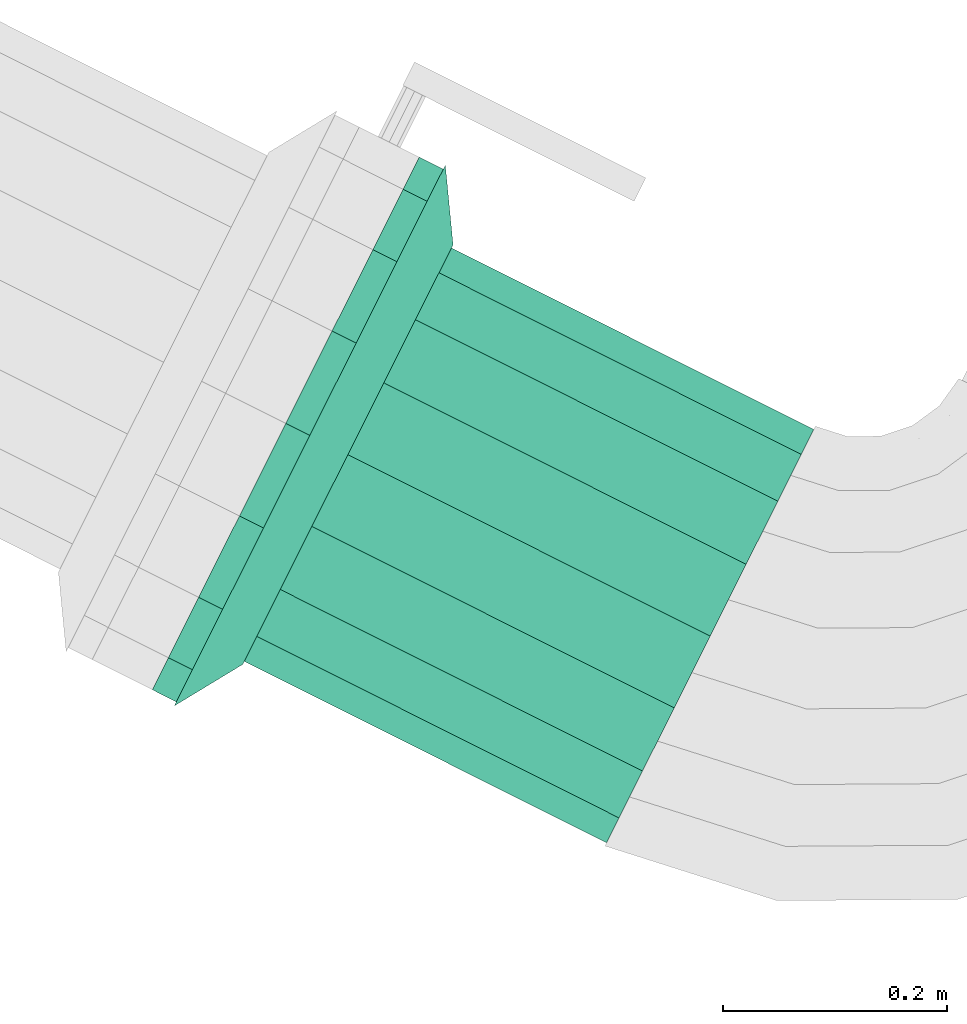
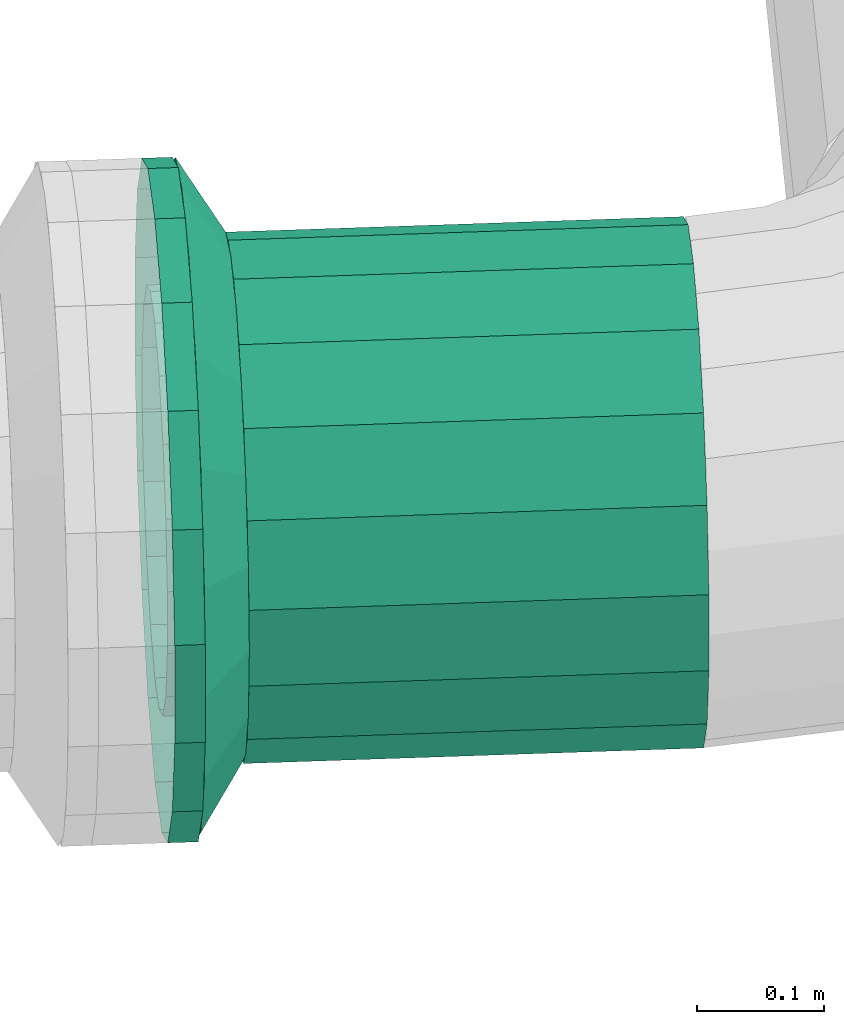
# One storey, part 27 of 152: 1 flow fitting, 1 flow segment.
"""IFC2X3 building model written with IfcOpenShell, lengths in metres."""

from ifc_helpers import new_model, si_unit, derived_unit, direction, frame, origin, place, context, subcontext, project, spatial, face_set, surface_model, source, transform, mapped, material, type_object, type_shapes, element, save


model = new_model("IFC2X3")

# Units and contexts
model_context = context("Model", 3, precision=5.2338327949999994e-05, world=origin(), true_north=direction((0.0, 1.0)))
body_context = subcontext(model_context, "Body", "Model", "MODEL_VIEW")
ifc_project = project(units=[si_unit("LENGTHUNIT", "METRE"), si_unit("AREAUNIT", "SQUARE_METRE"), si_unit("VOLUMEUNIT", "CUBIC_METRE"), si_unit("MASSUNIT", "GRAM", prefix="KILO"), si_unit("PLANEANGLEUNIT", "RADIAN"), derived_unit("THERMALTRANSMITTANCEUNIT", [(si_unit("MASSUNIT", "GRAM", prefix="KILO"), 1), (si_unit("THERMODYNAMICTEMPERATUREUNIT", "KELVIN"), -1), (si_unit("TIMEUNIT", "SECOND"), -3)])], contexts=[model_context])

# Site, building, storey
site_placement = place(None, frame((0.0, 0.0, 0.0), z_axis=(0.0, 0.0, 1.0), x_axis=(0.8939966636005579, -0.4480736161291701, 0.0)))
site = spatial("IfcSite", under=ifc_project, at=site_placement, Name="Default", CompositionType="ELEMENT")
building_placement = place(site_placement, origin())
building = spatial("IfcBuilding", under=site, at=building_placement, CompositionType="ELEMENT")
storey_placement = place(building_placement, frame((0.0, 0.0, 2.7499999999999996)))
storey = spatial("IfcBuildingStorey", under=building, at=storey_placement, Name="1. Obergeschoss", CompositionType="ELEMENT", Elevation=2.7499999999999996)

# Flow fitting
ifc_material = material(Name="IfcSurfaceStyle #9317")
distribution_element_type_1 = type_object("IfcDistributionElementType", Name="Flansch 262750:Flansch 262750", material=ifc_material)
shared_shape_1 = source(origin(), body_context, "Body", "SurfaceModel", [
    surface_model("IfcFaceBasedSurfaceModel", [(16.081297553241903, 5.856787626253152, 5.8056407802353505), (16.081297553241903, 5.7986442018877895, 5.7953885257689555), (16.105297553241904, 5.7986442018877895, 5.7953885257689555), (16.105297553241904, 5.856787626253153, 5.8056407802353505), (16.081297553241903, 5.74751373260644, 5.765868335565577), (16.105297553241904, 5.74751373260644, 5.765868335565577), (16.081297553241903, 5.709563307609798, 5.720640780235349), (16.105297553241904, 5.709563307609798, 5.720640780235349), (16.081297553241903, 5.689370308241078, 5.665160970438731), (16.105297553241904, 5.689370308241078, 5.665160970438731), (16.081297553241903, 5.6893703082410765, 5.606120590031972), (16.105297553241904, 5.6893703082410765, 5.606120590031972), (16.081297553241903, 5.709563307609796, 5.550640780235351), (16.105297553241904, 5.709563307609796, 5.550640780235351), (16.081297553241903, 5.747513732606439, 5.505413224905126), (16.105297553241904, 5.747513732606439, 5.505413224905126), (16.081297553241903, 5.798644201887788, 5.475893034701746), (16.105297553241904, 5.798644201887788, 5.475893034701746), (16.081297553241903, 5.856787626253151, 5.4656407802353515), (16.105297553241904, 5.856787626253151, 5.4656407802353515), (16.081297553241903, 5.914931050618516, 5.475893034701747), (16.105297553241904, 5.914931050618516, 5.475893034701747), (16.081297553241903, 5.9660615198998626, 5.505413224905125), (16.105297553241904, 5.9660615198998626, 5.505413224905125), (16.081297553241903, 6.004011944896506, 5.55064078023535), (16.105297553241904, 6.004011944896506, 5.55064078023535), (16.081297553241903, 6.024204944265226, 5.606120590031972), (16.105297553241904, 6.024204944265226, 5.606120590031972), (16.081297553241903, 6.024204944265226, 5.6651609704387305), (16.105297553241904, 6.024204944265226, 5.6651609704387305), (16.081297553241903, 6.004011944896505, 5.72064078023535), (16.105297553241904, 6.004011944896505, 5.72064078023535), (16.081297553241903, 5.966061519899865, 5.765868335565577), (16.105297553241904, 5.966061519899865, 5.765868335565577), (16.081297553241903, 5.914931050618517, 5.7953885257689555), (16.105297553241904, 5.914931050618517, 5.7953885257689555), (16.105297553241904, 5.856787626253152, 5.635640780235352), (16.105297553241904, 5.974287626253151, 5.63564078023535), (16.105297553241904, 5.967201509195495, 5.675828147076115), (16.143297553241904, 5.959730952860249, 5.673109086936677), (16.143297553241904, 5.966337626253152, 5.63564078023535), (16.105297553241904, 5.946797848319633, 5.711168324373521), (16.143297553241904, 5.940707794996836, 5.706058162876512), (16.105297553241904, 5.915537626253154, 5.7373987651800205), (16.143297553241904, 5.911562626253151, 5.730513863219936), (16.105297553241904, 5.877191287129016, 5.751355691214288), (16.143297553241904, 5.875810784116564, 5.743526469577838), (16.105297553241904, 5.83638396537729, 5.751355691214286), (16.143297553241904, 5.837764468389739, 5.743526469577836), (16.105297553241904, 5.798037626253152, 5.7373987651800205), (16.143297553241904, 5.802012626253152, 5.730513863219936), (16.105297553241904, 5.766777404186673, 5.711168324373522), (16.143297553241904, 5.7728674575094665, 5.706058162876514), (16.105297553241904, 5.746373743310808, 5.675828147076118), (16.143297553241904, 5.753844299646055, 5.673109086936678), (16.105297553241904, 5.739287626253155, 5.6356407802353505), (16.143297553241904, 5.747237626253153, 5.6356407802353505), (16.105297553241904, 5.7463737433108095, 5.5954534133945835), (16.143297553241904, 5.753844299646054, 5.598172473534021), (16.105297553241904, 5.766777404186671, 5.56011323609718), (16.143297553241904, 5.7728674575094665, 5.565223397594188), (16.105297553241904, 5.798037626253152, 5.53388279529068), (16.143297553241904, 5.80201262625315, 5.540767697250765), (16.105297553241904, 5.836383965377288, 5.519925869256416), (16.143297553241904, 5.837764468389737, 5.527755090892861), (16.105297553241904, 5.877191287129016, 5.519925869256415), (16.143297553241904, 5.875810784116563, 5.52775509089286), (16.105297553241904, 5.915537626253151, 5.533882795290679), (16.143297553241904, 5.911562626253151, 5.540767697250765), (16.105297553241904, 5.946797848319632, 5.56011323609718), (16.143297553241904, 5.940707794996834, 5.565223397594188), (16.105297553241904, 5.967201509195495, 5.595453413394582), (16.143297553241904, 5.959730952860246, 5.59817247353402), (16.081297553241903, 5.856787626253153, 5.90564078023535), (16.081297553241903, 5.764442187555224, 5.889357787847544), (16.105297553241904, 5.764442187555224, 5.889357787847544), (16.105297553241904, 5.856787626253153, 5.90564078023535), (16.081297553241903, 5.683234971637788, 5.842472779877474), (16.105297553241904, 5.683234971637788, 5.842472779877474), (16.081297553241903, 5.622960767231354, 5.770640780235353), (16.105297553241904, 5.622960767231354, 5.770640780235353), (16.081297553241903, 5.5908895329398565, 5.682525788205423), (16.105297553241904, 5.5908895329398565, 5.682525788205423), (16.081297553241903, 5.590889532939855, 5.58875577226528), (16.105297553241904, 5.590889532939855, 5.58875577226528), (16.081297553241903, 5.622960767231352, 5.5006407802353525), (16.105297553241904, 5.622960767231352, 5.5006407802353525), (16.081297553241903, 5.683234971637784, 5.428808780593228), (16.105297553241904, 5.683234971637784, 5.428808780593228), (16.081297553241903, 5.764442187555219, 5.381923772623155), (16.105297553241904, 5.764442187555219, 5.381923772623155), (16.081297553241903, 5.85678762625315, 5.365640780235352), (16.105297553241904, 5.85678762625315, 5.365640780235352), (16.081297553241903, 5.9491330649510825, 5.381923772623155), (16.105297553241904, 5.9491330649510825, 5.381923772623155), (16.081297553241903, 6.030340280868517, 5.428808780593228), (16.105297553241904, 6.030340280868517, 5.428808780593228), (16.081297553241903, 6.09061448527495, 5.50064078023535), (16.105297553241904, 6.09061448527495, 5.50064078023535), (16.081297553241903, 6.122685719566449, 5.588755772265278), (16.105297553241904, 6.122685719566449, 5.588755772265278), (16.081297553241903, 6.122685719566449, 5.682525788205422), (16.105297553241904, 6.122685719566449, 5.682525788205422), (16.081297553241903, 6.090614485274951, 5.77064078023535), (16.105297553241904, 6.090614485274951, 5.77064078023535), (16.081297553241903, 6.03034028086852, 5.8424727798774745), (16.105297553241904, 6.03034028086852, 5.8424727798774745), (16.081297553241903, 5.949133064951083, 5.889357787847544), (16.105297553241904, 5.949133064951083, 5.889357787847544), (16.105297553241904, 6.1267876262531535, 5.63564078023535), (16.105297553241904, 6.110504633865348, 5.727986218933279), (16.143297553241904, 6.053700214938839, 5.707311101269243), (16.143297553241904, 6.066337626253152, 5.63564078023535), (16.105297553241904, 6.063619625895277, 5.809193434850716), (16.143297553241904, 6.017312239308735, 5.770336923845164), (16.105297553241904, 5.991787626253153, 5.869467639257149), (16.143297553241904, 5.961562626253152, 5.817116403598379), (16.105297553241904, 5.903672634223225, 5.901538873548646), (16.143297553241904, 5.893175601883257, 5.842007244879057), (16.105297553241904, 5.809902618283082, 5.901538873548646), (16.143297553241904, 5.820399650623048, 5.842007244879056), (16.105297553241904, 5.721787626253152, 5.869467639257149), (16.143297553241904, 5.752012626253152, 5.817116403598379), (16.105297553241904, 5.649955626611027, 5.809193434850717), (16.143297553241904, 5.696263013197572, 5.770336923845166), (16.105297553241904, 5.603070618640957, 5.727986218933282), (16.143297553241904, 5.659875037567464, 5.707311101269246), (16.105297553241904, 5.586787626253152, 5.635640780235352), (16.143297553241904, 5.647237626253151, 5.635640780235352), (16.105297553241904, 5.603070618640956, 5.54329534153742), (16.143297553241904, 5.659875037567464, 5.563970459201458), (16.105297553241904, 5.649955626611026, 5.462088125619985), (16.143297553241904, 5.696263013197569, 5.500944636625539), (16.105297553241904, 5.7217876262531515, 5.401813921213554), (16.143297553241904, 5.752012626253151, 5.454165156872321), (16.105297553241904, 5.809902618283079, 5.369742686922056), (16.143297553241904, 5.820399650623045, 5.429274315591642), (16.105297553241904, 5.903672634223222, 5.369742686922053), (16.143297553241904, 5.893175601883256, 5.429274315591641), (16.105297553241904, 5.991787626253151, 5.401813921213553), (16.143297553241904, 5.96156262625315, 5.454165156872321), (16.105297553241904, 6.063619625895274, 5.462088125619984), (16.143297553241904, 6.0173122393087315, 5.500944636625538), (16.105297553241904, 6.1105046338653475, 5.54329534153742), (16.143297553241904, 6.053700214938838, 5.563970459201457)], [face_set([[[0, 1, 2, 3]], [[1, 4, 5, 2]], [[4, 6, 7, 5]], [[6, 8, 9, 7]], [[8, 10, 11, 9]], [[10, 12, 13, 11]], [[12, 14, 15, 13]], [[14, 16, 17, 15]], [[16, 18, 19, 17]], [[18, 20, 21, 19]], [[20, 22, 23, 21]], [[22, 24, 25, 23]], [[24, 26, 27, 25]], [[26, 28, 29, 27]], [[28, 30, 31, 29]], [[30, 32, 33, 31]], [[32, 34, 35, 33]], [[34, 0, 3, 35]], [[36, 35, 3]], [[36, 33, 35]], [[36, 31, 33]], [[36, 29, 31]], [[36, 27, 29]], [[36, 25, 27]], [[36, 23, 25]], [[36, 21, 23]], [[36, 19, 21]], [[36, 17, 19]], [[36, 15, 17]], [[36, 13, 15]], [[36, 11, 13]], [[36, 9, 11]], [[36, 7, 9]], [[36, 5, 7]], [[36, 2, 5]], [[36, 3, 2]], [[37, 38, 39, 40]], [[38, 41, 42, 39]], [[41, 43, 44, 42]], [[43, 45, 46, 44]], [[45, 47, 48, 46]], [[47, 49, 50, 48]], [[49, 51, 52, 50]], [[51, 53, 54, 52]], [[53, 55, 56, 54]], [[55, 57, 58, 56]], [[57, 59, 60, 58]], [[59, 61, 62, 60]], [[61, 63, 64, 62]], [[63, 65, 66, 64]], [[65, 67, 68, 66]], [[67, 69, 70, 68]], [[69, 71, 72, 70]], [[71, 37, 40, 72]], [[73, 74, 75, 76]], [[74, 77, 78, 75]], [[77, 79, 80, 78]], [[79, 81, 82, 80]], [[81, 83, 84, 82]], [[83, 85, 86, 84]], [[85, 87, 88, 86]], [[87, 89, 90, 88]], [[89, 91, 92, 90]], [[91, 93, 94, 92]], [[93, 95, 96, 94]], [[95, 97, 98, 96]], [[97, 99, 100, 98]], [[99, 101, 102, 100]], [[101, 103, 104, 102]], [[103, 105, 106, 104]], [[105, 107, 108, 106]], [[107, 73, 76, 108]], [[109, 110, 111, 112]], [[110, 113, 114, 111]], [[113, 115, 116, 114]], [[115, 117, 118, 116]], [[117, 119, 120, 118]], [[119, 121, 122, 120]], [[121, 123, 124, 122]], [[123, 125, 126, 124]], [[125, 127, 128, 126]], [[127, 129, 130, 128]], [[129, 131, 132, 130]], [[131, 133, 134, 132]], [[133, 135, 136, 134]], [[135, 137, 138, 136]], [[137, 139, 140, 138]], [[139, 141, 142, 140]], [[141, 143, 144, 142]], [[143, 109, 112, 144]]])]),
])
type_shapes(distribution_element_type_1, [shared_shape_1])
flow_fitting_placement = place(storey_placement, frame((0.0, 0.0, -2.7499999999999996)))
element("IfcFlowFitting", 1, at=flow_fitting_placement, inside=storey, type_object=distribution_element_type_1, material=ifc_material, Name="Flansch", ObjectType="Flansch", context=body_context, shape_type="MappedRepresentation", body=[
    mapped(shared_shape_1, transform((0.0, 0.0, 0.0), scale=1.0)),
])

# Flow segment
distribution_element_type_2 = type_object("IfcDistributionElementType", Name="Stahlrohr nach DIN 2448 262773:Stahlrohr nach DIN 2448 262773", material=ifc_material)
shared_shape_2 = source(origin(), body_context, "Body", "SurfaceModel", [
    surface_model("IfcFaceBasedSurfaceModel", [(16.143297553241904, 5.856787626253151, 5.52609078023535), (16.143297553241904, 5.894255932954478, 5.532697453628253), (16.50504158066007, 5.8942559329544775, 5.532697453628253), (16.50504158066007, 5.856787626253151, 5.52609078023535), (16.143297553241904, 5.927205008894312, 5.5517206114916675), (16.50504158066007, 5.927205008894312, 5.551720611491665), (16.143297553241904, 5.951660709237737, 5.580865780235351), (16.50504158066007, 5.951660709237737, 5.58086578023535), (16.143297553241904, 5.964673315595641, 5.616617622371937), (16.50504158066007, 5.964673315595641, 5.616617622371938), (16.143297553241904, 5.9646733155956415, 5.654663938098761), (16.50504158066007, 5.9646733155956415, 5.654663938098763), (16.143297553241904, 5.95166070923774, 5.690415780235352), (16.50504158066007, 5.95166070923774, 5.690415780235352), (16.143297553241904, 5.927205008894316, 5.719560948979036), (16.50504158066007, 5.927205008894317, 5.719560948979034), (16.143297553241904, 5.894255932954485, 5.738584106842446), (16.50504158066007, 5.894255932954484, 5.738584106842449), (16.143297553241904, 5.8567876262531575, 5.745190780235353), (16.50504158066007, 5.856787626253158, 5.745190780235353), (16.143297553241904, 5.8193193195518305, 5.7385841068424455), (16.50504158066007, 5.819319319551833, 5.738584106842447), (16.143297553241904, 5.786370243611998, 5.719560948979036), (16.50504158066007, 5.786370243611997, 5.719560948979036), (16.143297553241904, 5.7619145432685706, 5.690415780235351), (16.50504158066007, 5.761914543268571, 5.690415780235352), (16.143297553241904, 5.748901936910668, 5.654663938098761), (16.50504158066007, 5.748901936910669, 5.654663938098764), (16.143297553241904, 5.748901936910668, 5.616617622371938), (16.50504158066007, 5.748901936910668, 5.61661762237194), (16.143297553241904, 5.761914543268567, 5.58086578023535), (16.50504158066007, 5.761914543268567, 5.58086578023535), (16.143297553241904, 5.786370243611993, 5.551720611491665), (16.50504158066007, 5.786370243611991, 5.5517206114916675), (16.143297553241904, 5.819319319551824, 5.532697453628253), (16.50504158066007, 5.819319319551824, 5.532697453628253), (16.143297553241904, 5.856787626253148, 5.4260907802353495), (16.143297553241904, 5.928457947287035, 5.438728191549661), (16.50504158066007, 5.928457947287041, 5.438728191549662), (16.50504158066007, 5.856787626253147, 5.4260907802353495), (16.143297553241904, 5.991483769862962, 5.475116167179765), (16.50504158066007, 5.991483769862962, 5.475116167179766), (16.143297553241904, 6.038263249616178, 5.530865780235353), (16.50504158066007, 6.038263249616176, 5.530865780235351), (16.143297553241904, 6.063154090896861, 5.599252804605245), (16.50504158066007, 6.06315409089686, 5.5992528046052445), (16.143297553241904, 6.063154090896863, 5.6720287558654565), (16.50504158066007, 6.063154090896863, 5.6720287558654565), (16.143297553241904, 6.038263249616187, 5.740415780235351), (16.50504158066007, 6.038263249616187, 5.740415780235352), (16.143297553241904, 5.991483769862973, 5.796165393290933), (16.50504158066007, 5.991483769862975, 5.7961653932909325), (16.143297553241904, 5.928457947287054, 5.832553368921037), (16.50504158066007, 5.928457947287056, 5.832553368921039), (16.143297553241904, 5.856787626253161, 5.84519078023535), (16.50504158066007, 5.856787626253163, 5.845190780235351), (16.143297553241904, 5.785117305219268, 5.832553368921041), (16.50504158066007, 5.785117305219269, 5.832553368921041), (16.143297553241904, 5.722091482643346, 5.796165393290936), (16.50504158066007, 5.722091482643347, 5.796165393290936), (16.143297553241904, 5.675312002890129, 5.74041578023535), (16.50504158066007, 5.675312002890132, 5.740415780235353), (16.143297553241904, 5.650421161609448, 5.672028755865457), (16.50504158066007, 5.650421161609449, 5.672028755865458), (16.143297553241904, 5.6504211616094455, 5.599252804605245), (16.50504158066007, 5.6504211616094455, 5.599252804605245), (16.143297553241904, 5.675312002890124, 5.530865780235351), (16.50504158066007, 5.675312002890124, 5.530865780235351), (16.143297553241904, 5.722091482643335, 5.475116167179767), (16.50504158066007, 5.722091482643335, 5.475116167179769), (16.143297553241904, 5.785117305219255, 5.438728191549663), (16.50504158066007, 5.785117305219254, 5.438728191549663)], [face_set([[[0, 1, 2, 3]], [[1, 4, 5, 2]], [[4, 6, 7, 5]], [[6, 8, 9, 7]], [[8, 10, 11, 9]], [[10, 12, 13, 11]], [[12, 14, 15, 13]], [[14, 16, 17, 15]], [[16, 18, 19, 17]], [[18, 20, 21, 19]], [[20, 22, 23, 21]], [[22, 24, 25, 23]], [[24, 26, 27, 25]], [[26, 28, 29, 27]], [[28, 30, 31, 29]], [[30, 32, 33, 31]], [[32, 34, 35, 33]], [[34, 0, 3, 35]], [[36, 37, 38, 39]], [[37, 40, 41, 38]], [[40, 42, 43, 41]], [[42, 44, 45, 43]], [[44, 46, 47, 45]], [[46, 48, 49, 47]], [[48, 50, 51, 49]], [[50, 52, 53, 51]], [[52, 54, 55, 53]], [[54, 56, 57, 55]], [[56, 58, 59, 57]], [[58, 60, 61, 59]], [[60, 62, 63, 61]], [[62, 64, 65, 63]], [[64, 66, 67, 65]], [[66, 68, 69, 67]], [[68, 70, 71, 69]], [[70, 36, 39, 71]]])]),
])
type_shapes(distribution_element_type_2, [shared_shape_2])
flow_segment_placement = place(storey_placement, frame((0.0, 0.0, -2.7499999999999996)))
element("IfcFlowSegment", 2, at=flow_segment_placement, inside=storey, type_object=distribution_element_type_2, material=ifc_material, Name="Stahlrohr nach DIN 2448", ObjectType="Stahlrohr nach DIN 2448", context=body_context, shape_type="MappedRepresentation", body=[
    mapped(shared_shape_2, transform((0.0, 0.0, 0.0), scale=1.0)),
])

save(model, "model.ifc")
